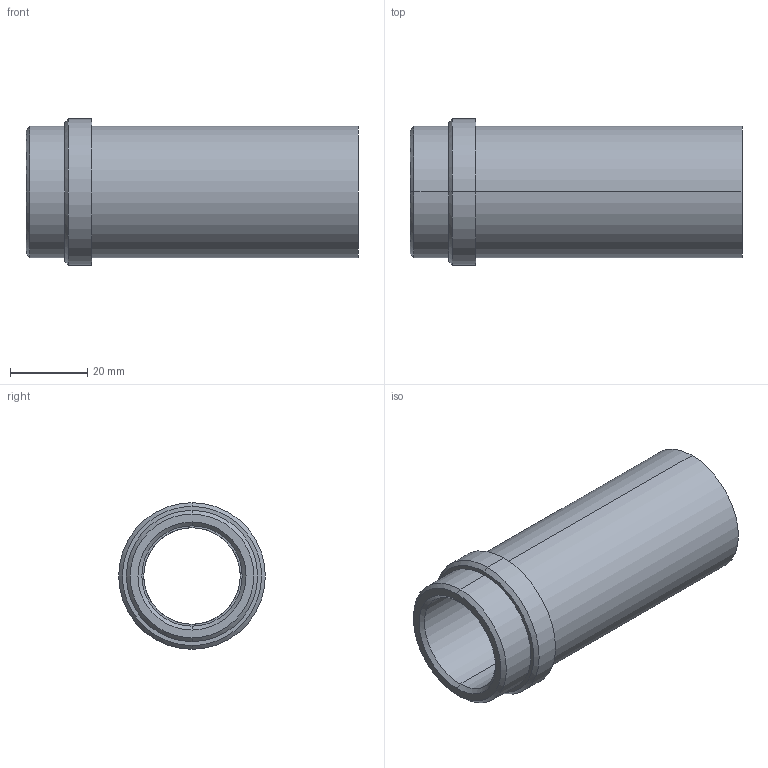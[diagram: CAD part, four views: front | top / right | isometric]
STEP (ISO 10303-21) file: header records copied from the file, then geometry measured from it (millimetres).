
FILE_DESCRIPTION(('CATIA V5 STEP Exchange'),'2;1');
FILE_NAME('C:\Users\Utente\Desktop\IO LAVORO\3D X SITO CF\X SITO\PLASTICA\358\358-25x86.stp','2021-04-09T13:20:27+00:00',('none'),('none'),'CATIA Version 5 Release 20 GA (IN-10)','CATIA V5 STEP AP203','none');
FILE_SCHEMA(('CONFIG_CONTROL_DESIGN'));
Length unit declared in the file: millimetre
Products named in the file (1): 358-25X86
Bounding box: 86 x 38 x 38 mm (x, y, z)
Volume: 35784.6 mm3; surface area: 17180.7 mm2
Topology: 1 solids, 1 shells, 23 faces, 74 edges, 56 vertices
Faces by surface type: cylinder 10, cone 6, plane 5, torus 2
Entity records: 1066 total; most frequent: CARTESIAN_POINT 378, ORIENTED_EDGE 148, DIRECTION 104, EDGE_CURVE 74, AXIS2_PLACEMENT_3D 66, VERTEX_POINT 56, CIRCLE 42, EDGE_LOOP 28
